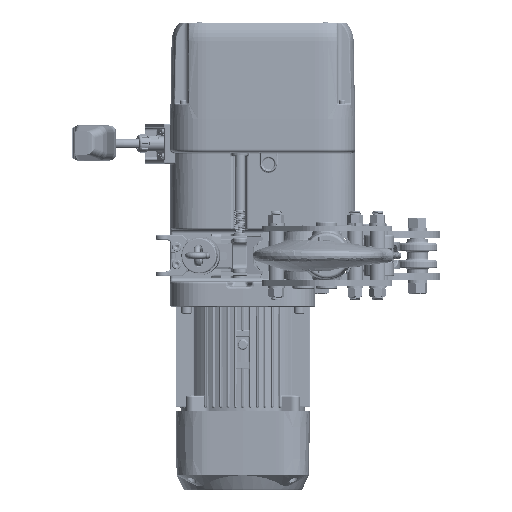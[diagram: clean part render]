
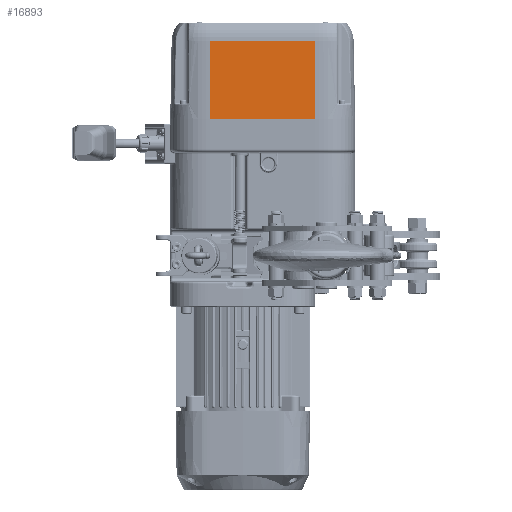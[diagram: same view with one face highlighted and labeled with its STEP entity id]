
A CAD part, front view. The second image highlights one B-rep face of the part: STEP entity #16893.
In plain terms, the highlighted planar face has unit normal (0, -1, 0.018).
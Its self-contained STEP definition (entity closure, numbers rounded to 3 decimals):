
#2939 = ORIENTED_EDGE ( 'NONE', *, *, #195712, .F. ) ;
#3746 = ORIENTED_EDGE ( 'NONE', *, *, #189605, .T. ) ;
#5275 = LINE ( 'NONE', #157529, #118232 ) ;
#10014 = LINE ( 'NONE', #145586, #137842 ) ;
#14136 = DIRECTION ( 'NONE',  ( 0., -1., 0.017 ) ) ;
#16893 = ADVANCED_FACE ( 'NONE', ( #231638 ), #76742, .T. ) ;
#27053 = EDGE_CURVE ( 'NONE', #176604, #224609, #248042, .T. ) ;
#29256 = CARTESIAN_POINT ( 'NONE',  ( 89.882, -132.5, 0. ) ) ;
#44970 = VECTOR ( 'NONE', #69341, 1000. ) ;
#63986 = CARTESIAN_POINT ( 'NONE',  ( 89.882, -130.193, 132.162 ) ) ;
#69341 = DIRECTION ( 'NONE',  ( 0., -0.017, -1. ) ) ;
#76742 = PLANE ( 'NONE',  #163823 ) ;
#99875 = VERTEX_POINT ( 'NONE', #138222 ) ;
#108547 = DIRECTION ( 'NONE',  ( 0., -0.017, -1. ) ) ;
#118232 = VECTOR ( 'NONE', #143364, 1000. ) ;
#137842 = VECTOR ( 'NONE', #163548, 1000. ) ;
#138222 = CARTESIAN_POINT ( 'NONE',  ( -89.882, -132.5, 0. ) ) ;
#143364 = DIRECTION ( 'NONE',  ( -1., 0., 0. ) ) ;
#145586 = CARTESIAN_POINT ( 'NONE',  ( 0., -132.5, 0. ) ) ;
#153495 = DIRECTION ( 'NONE',  ( 0., -0.017, -1. ) ) ;
#157529 = CARTESIAN_POINT ( 'NONE',  ( 89.882, -130.193, 132.162 ) ) ;
#163548 = DIRECTION ( 'NONE',  ( -1., 0., 0. ) ) ;
#163823 = AXIS2_PLACEMENT_3D ( 'NONE', #227855, #14136, #153495 ) ;
#165012 = CARTESIAN_POINT ( 'NONE',  ( 89.882, -132.5, 0. ) ) ;
#167838 = EDGE_CURVE ( 'NONE', #176604, #178982, #5275, .T. ) ;
#171250 = LINE ( 'NONE', #242141, #44970 ) ;
#176604 = VERTEX_POINT ( 'NONE', #63986 ) ;
#178982 = VERTEX_POINT ( 'NONE', #216057 ) ;
#179228 = VECTOR ( 'NONE', #108547, 1000. ) ;
#189605 = EDGE_CURVE ( 'NONE', #178982, #99875, #171250, .T. ) ;
#195712 = EDGE_CURVE ( 'NONE', #224609, #99875, #10014, .T. ) ;
#208698 = ORIENTED_EDGE ( 'NONE', *, *, #167838, .T. ) ;
#212663 = ORIENTED_EDGE ( 'NONE', *, *, #27053, .F. ) ;
#216057 = CARTESIAN_POINT ( 'NONE',  ( -89.882, -130.193, 132.162 ) ) ;
#221308 = EDGE_LOOP ( 'NONE', ( #208698, #3746, #2939, #212663 ) ) ;
#224609 = VERTEX_POINT ( 'NONE', #165012 ) ;
#227855 = CARTESIAN_POINT ( 'NONE',  ( 0., -132.5, 0. ) ) ;
#231638 = FACE_OUTER_BOUND ( 'NONE', #221308, .T. ) ;
#242141 = CARTESIAN_POINT ( 'NONE',  ( -89.882, -132.5, 0. ) ) ;
#248042 = LINE ( 'NONE', #29256, #179228 ) ;
